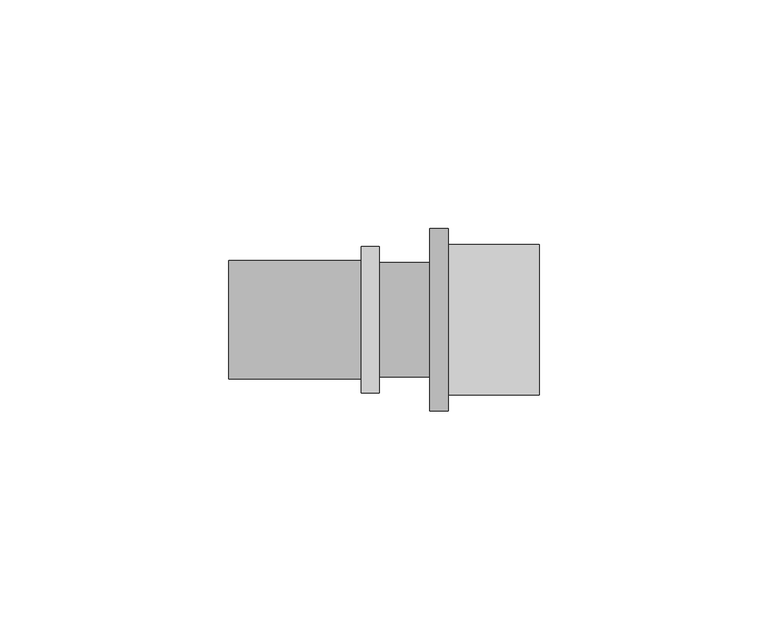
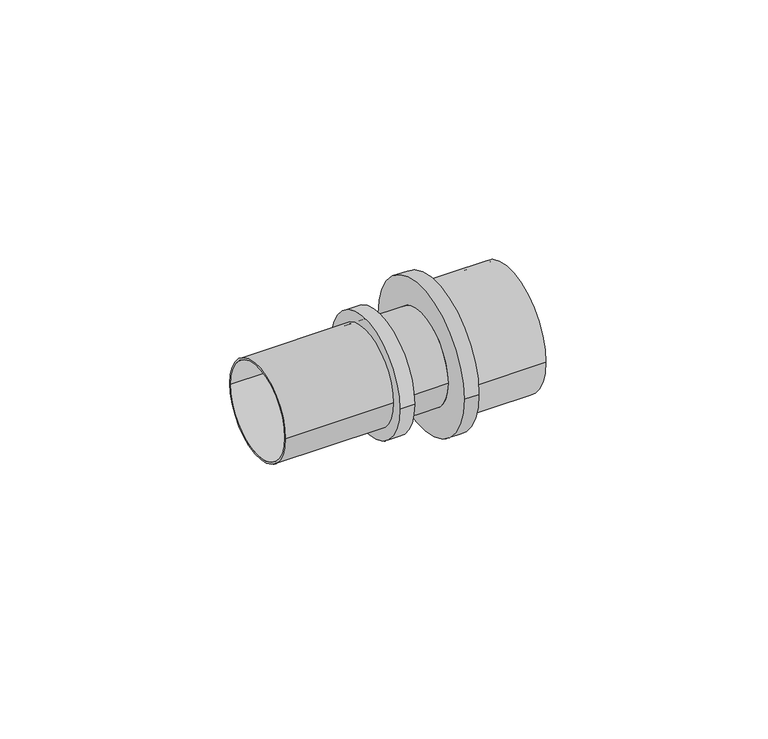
"""IFC4 building model written with IfcOpenShell, lengths in millimetres: pipe fitting geometry, БИР ПЕКС_НПР_Соединитель_Резьба_Наружная : Соединитель прямой с наружной резьбой."""

from ifc_helpers import new_model, si_unit, point, frame, origin, origin_2d, place, context, project, spatial, circle_curve, trimmed, segment, composite_curve, outline, extrude, source, transform, mapped, element, save


def pipe_fitting_73efd586(model_context):
    return source(origin(), model_context, "Body", "SweptSolid", [
        extrude(outline(composite_curve([segment(trimmed(circle_curve(origin_2d(), 13.0), [point((-13.0, 0.0))], [point((13.0, 0.0))], False, "CARTESIAN"), True, "CONTINUOUS"), segment(trimmed(circle_curve(origin_2d(), 13.0), [point((13.0, 0.0))], [point((-13.0, 0.0))], False, "CARTESIAN"), True, "CONTINUOUS")], self_intersect=False), holes=[composite_curve([segment(trimmed(circle_curve(origin_2d(), 12.5), [point((-12.5, 0.0))], [point((12.5, 0.0))], True, "CARTESIAN"), True, "CONTINUOUS"), segment(trimmed(circle_curve(origin_2d(), 12.5), [point((12.5, 0.0))], [point((-12.5, 0.0))], True, "CARTESIAN"), True, "CONTINUOUS")], self_intersect=False)]), frame((-35.375, 0.0, 0.0), z_axis=(1.0, 0.0, 0.0), x_axis=(0.0, 1.0, 0.0)), (0.0, 0.0, 1.0), 29.0),
        extrude(outline(composite_curve([segment(trimmed(circle_curve(origin_2d(), 16.5), [point((-16.5, 0.0))], [point((16.5, 0.0))], False, "CARTESIAN"), True, "CONTINUOUS"), segment(trimmed(circle_curve(origin_2d(), 16.5), [point((16.5, 0.0))], [point((-16.5, 0.0))], False, "CARTESIAN"), True, "CONTINUOUS")], self_intersect=False), holes=[composite_curve([segment(trimmed(circle_curve(origin_2d(), 16.0), [point((-16.0, 0.0))], [point((16.0, 0.0))], True, "CARTESIAN"), True, "CONTINUOUS"), segment(trimmed(circle_curve(origin_2d(), 16.0), [point((16.0, 0.0))], [point((-16.0, 0.0))], True, "CARTESIAN"), True, "CONTINUOUS")], self_intersect=False)]), frame((12.625, 0.0, 0.0), z_axis=(1.0, 0.0, 0.0), x_axis=(0.0, 1.0, 0.0)), (0.0, 0.0, 1.0), 20.0),
        extrude(outline(composite_curve([segment(trimmed(circle_curve(origin_2d(), 12.5), [point((-12.5, 0.0))], [point((12.5, 0.0))], False, "CARTESIAN"), True, "CONTINUOUS"), segment(trimmed(circle_curve(origin_2d(), 12.5), [point((12.5, 0.0))], [point((-12.5, 0.0))], False, "CARTESIAN"), True, "CONTINUOUS")], self_intersect=False)), frame((-2.375, 0.0, 0.0), z_axis=(1.0, 0.0, 0.0), x_axis=(0.0, 1.0, 0.0)), (0.0, 0.0, 1.0), 11.0),
        extrude(outline(composite_curve([segment(trimmed(circle_curve(origin_2d(), 20.0), [point((-20.0, 0.0))], [point((20.0, 0.0))], False, "CARTESIAN"), True, "CONTINUOUS"), segment(trimmed(circle_curve(origin_2d(), 20.0), [point((20.0, 0.0))], [point((-20.0, 0.0))], False, "CARTESIAN"), True, "CONTINUOUS")], self_intersect=False), holes=[composite_curve([segment(trimmed(circle_curve(origin_2d(), 12.5), [point((-12.5, 0.0))], [point((12.5, 0.0))], True, "CARTESIAN"), True, "CONTINUOUS"), segment(trimmed(circle_curve(origin_2d(), 12.5), [point((12.5, 0.0))], [point((-12.5, 0.0))], True, "CARTESIAN"), True, "CONTINUOUS")], self_intersect=False)]), frame((8.625, 0.0, 0.0), z_axis=(1.0, 0.0, 0.0), x_axis=(0.0, 1.0, 0.0)), (0.0, 0.0, 1.0), 4.0),
        extrude(outline(composite_curve([segment(trimmed(circle_curve(origin_2d(), 16.0), [point((-16.0, 0.0))], [point((16.0, 0.0))], False, "CARTESIAN"), True, "CONTINUOUS"), segment(trimmed(circle_curve(origin_2d(), 16.0), [point((16.0, 0.0))], [point((-16.0, 0.0))], False, "CARTESIAN"), True, "CONTINUOUS")], self_intersect=False), holes=[composite_curve([segment(trimmed(circle_curve(origin_2d(), 12.5), [point((-12.5, 0.0))], [point((12.5, 0.0))], True, "CARTESIAN"), True, "CONTINUOUS"), segment(trimmed(circle_curve(origin_2d(), 12.5), [point((12.5, 0.0))], [point((-12.5, 0.0))], True, "CARTESIAN"), True, "CONTINUOUS")], self_intersect=False)]), frame((-6.375, 0.0, 0.0), z_axis=(1.0, 0.0, 0.0), x_axis=(0.0, 1.0, 0.0)), (0.0, 0.0, 1.0), 4.0),
    ])


if __name__ == "__main__":
    model = new_model("IFC4")
    model_context = context("Model", 3, world=origin())
    ifc_project = project(units=[si_unit("LENGTHUNIT", "METRE", prefix="MILLI")], contexts=[model_context])
    site = spatial("IfcSite", under=ifc_project)
    building = spatial("IfcBuilding", under=site)
    placement = place(None, origin())
    pipe_fitting_shape = pipe_fitting_73efd586(model_context)
    element("IfcPipeFitting", 1, ObjectType="БИР ПЕКС_НПР_Соединитель_Резьба_Наружная : Соединитель прямой с наружной резьбой", at=placement, inside=building, context=model_context, shape_type="MappedRepresentation", body=[
        mapped(pipe_fitting_shape, transform((0.0, 0.0, 0.0), x_axis=(1.0, 0.0, 0.0), y_axis=(0.0, 1.0, 0.0), z_axis=(0.0, 0.0, 1.0))),
    ])
    save(model, "model.ifc")
